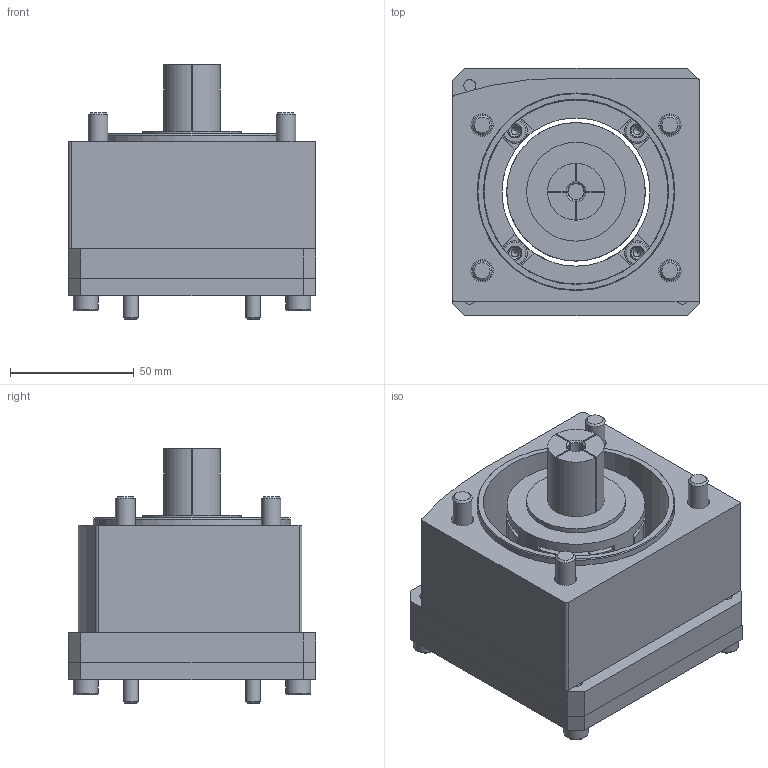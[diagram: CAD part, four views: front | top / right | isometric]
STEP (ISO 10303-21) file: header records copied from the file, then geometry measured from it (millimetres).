
FILE_DESCRIPTION(/* description */ ('EAMK-A O-Coupling housing'),/* implementation_level */ '2;1');
FILE_NAME(/* name */ 'C:\STORE\ホームページ用データ\\X2\30E230FC30BF53D64ED830AD30C330C8\X0\_2016_2016.10.06_\X2\30AB30BF30ED30B065398A025206\X0\\3D_STEP\J09885.stp',/* time_stamp */ '2016-10-17T17:07:34+09:00',/* author */ ('jp0tot'),/* organization */ ('FESTO'),/* preprocessor_version */ 'ST-DEVELOPER v15.6',/* originating_system */ 'Autodesk Inventor 2015',/* authorisation */ '');
FILE_SCHEMA (('AUTOMOTIVE_DESIGN { 1 0 10303 214 3 1 1 }'));
Length unit declared in the file: millimetre
Products named in the file (8): 1345953 EAMK-A-N80-80A---(1O); J09890; J09891; DIN-6912 - M6x12(F); DIN-912 - M8x60(F); 558004 EAMD-56-46-20-23x27; コピー版 JIS B 1176 - M6 x 18; J09885
Bounding box: 100 x 100 x 103 mm (x, y, z)
Volume: 414997.2 mm3; surface area: 130658.5 mm2
Topology: 16 solids, 16 shells, 536 faces, 1296 edges, 810 vertices
Faces by surface type: plane 284, cylinder 124, cone 107, torus 21
Full cylindrical faces by diameter (mm): 3 x4, 4.917 x5, 6 x9, 6.6 x8, 8 x4, 9 x8, 10 x9, 13 x5, 15 x8, 26.2 x1, 40 x1, 56 x1, 60 x1, 75 x2, 80 x3
Entity records: 9865 total; most frequent: CARTESIAN_POINT 1912, DIRECTION 1671, ORIENTED_EDGE 1496, EDGE_CURVE 748, AXIS2_PLACEMENT_3D 644, VERTEX_POINT 523, EDGE_LOOP 463, LINE 383
